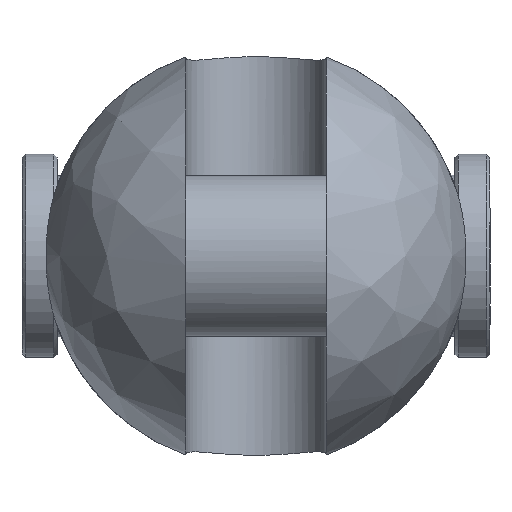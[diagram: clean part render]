
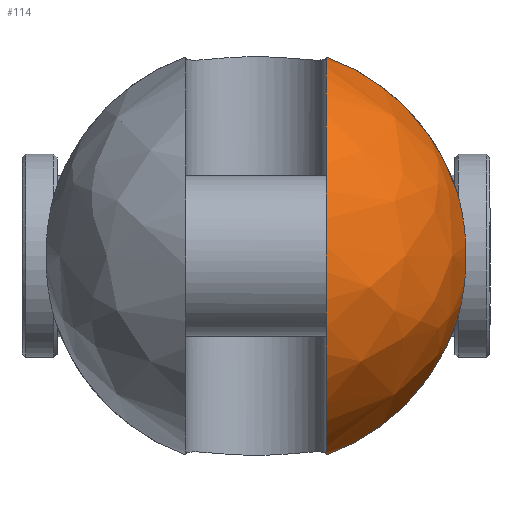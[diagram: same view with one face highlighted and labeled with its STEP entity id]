
A CAD part, left-side view. The second image highlights one B-rep face of the part: STEP entity #114.
In plain terms, the highlighted free-form (B-spline) face has degree [2, 2] with [9, 5] control points.
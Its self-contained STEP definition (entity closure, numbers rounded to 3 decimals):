
#114=ADVANCED_FACE('',(#202),#1535,.T.);
#202=FACE_OUTER_BOUND('',#302,.T.);
#302=EDGE_LOOP('',(#746,#747,#748,#749));
#746=ORIENTED_EDGE('',*,*,#1003,.T.);
#747=ORIENTED_EDGE('',*,*,#1000,.F.);
#748=ORIENTED_EDGE('',*,*,#1017,.T.);
#749=ORIENTED_EDGE('',*,*,#994,.F.);
#994=EDGE_CURVE('',#1425,#1426,#1256,.T.);
#1000=EDGE_CURVE('',#1433,#1434,#1257,.T.);
#1003=EDGE_CURVE('',#1425,#1434,#1259,.T.);
#1017=EDGE_CURVE('',#1433,#1426,#1126,.T.);
#1126=B_SPLINE_CURVE_WITH_KNOTS('',3,(#3564,#3565,#3566,#3567,#3568,#3569,
#3570,#3571,#3572,#3573,#3574,#3575,#3576,#3577),.UNSPECIFIED.,.F.,.F.,
(4,2,2,2,2,2,4),(0.,1.771,5.858,9.944,
14.031,18.117,19.888),.UNSPECIFIED.);
#1256=(
BOUNDED_CURVE()
B_SPLINE_CURVE(2,(#3472,#3473,#3474),.UNSPECIFIED.,.F.,.F.)
B_SPLINE_CURVE_WITH_KNOTS((3,3),(0.,27.615),.UNSPECIFIED.)
CURVE()
GEOMETRIC_REPRESENTATION_ITEM()
RATIONAL_B_SPLINE_CURVE((1.,0.896,1.))
REPRESENTATION_ITEM('')
);
#1257=(
BOUNDED_CURVE()
B_SPLINE_CURVE(2,(#3501,#3502,#3503),.UNSPECIFIED.,.F.,.F.)
B_SPLINE_CURVE_WITH_KNOTS((3,3),(0.,27.615),.UNSPECIFIED.)
CURVE()
GEOMETRIC_REPRESENTATION_ITEM()
RATIONAL_B_SPLINE_CURVE((1.,0.896,1.))
REPRESENTATION_ITEM('')
);
#1259=(
BOUNDED_CURVE()
B_SPLINE_CURVE(2,(#3509,#3510,#3511,#3512,#3513),.UNSPECIFIED.,.F.,.F.)
B_SPLINE_CURVE_WITH_KNOTS((3,2,3),(-88.858,-44.429,
0.),.UNSPECIFIED.)
CURVE()
GEOMETRIC_REPRESENTATION_ITEM()
RATIONAL_B_SPLINE_CURVE((1.,0.707,1.,0.707,1.))
REPRESENTATION_ITEM('')
);
#1425=VERTEX_POINT('',#3302);
#1426=VERTEX_POINT('',#3303);
#1433=VERTEX_POINT('',#3310);
#1434=VERTEX_POINT('',#3311);
#1535=(
BOUNDED_SURFACE()
B_SPLINE_SURFACE(2,2,((#3174,#3175,#3176,#3177,#3178),(#3179,#3180,#3181,
#3182,#3183),(#3184,#3185,#3186,#3187,#3188),(#3189,#3190,#3191,#3192,#3193),
(#3194,#3195,#3196,#3197,#3198),(#3199,#3200,#3201,#3202,#3203),(#3204,
#3205,#3206,#3207,#3208),(#3209,#3210,#3211,#3212,#3213),(#3214,#3215,#3216,
#3217,#3218)),.UNSPECIFIED.,.T.,.F.,.F.)
B_SPLINE_SURFACE_WITH_KNOTS((3,2,2,2,3),(3,2,3),(0.,47.124,94.248,
141.372,188.496),(0.,47.124,94.248),
 .UNSPECIFIED.)
GEOMETRIC_REPRESENTATION_ITEM()
RATIONAL_B_SPLINE_SURFACE(((1.,0.707,1.,0.707,1.),
(0.707,0.5,0.707,0.5,0.707),(1.,0.707,
1.,0.707,1.),(0.707,0.5,0.707,0.5,0.707),
(1.,0.707,1.,0.707,1.),(0.707,0.5,0.707,
0.5,0.707),(1.,0.707,1.,0.707,1.),(0.707,
0.5,0.707,0.5,0.707),(1.,0.707,1.,0.707,
1.)))
REPRESENTATION_ITEM('')
SURFACE()
);
#3174=CARTESIAN_POINT('',(-42.5,0.,0.));
#3175=CARTESIAN_POINT('',(-42.5,30.,0.));
#3176=CARTESIAN_POINT('',(-12.5,30.,0.));
#3177=CARTESIAN_POINT('',(17.5,30.,0.));
#3178=CARTESIAN_POINT('',(17.5,0.,0.));
#3179=CARTESIAN_POINT('',(-42.5,0.,0.));
#3180=CARTESIAN_POINT('',(-42.5,30.,30.));
#3181=CARTESIAN_POINT('',(-12.5,30.,30.));
#3182=CARTESIAN_POINT('',(17.5,30.,30.));
#3183=CARTESIAN_POINT('',(17.5,0.,0.));
#3184=CARTESIAN_POINT('',(-42.5,0.,0.));
#3185=CARTESIAN_POINT('',(-42.5,0.,30.));
#3186=CARTESIAN_POINT('',(-12.5,0.,30.));
#3187=CARTESIAN_POINT('',(17.5,0.,30.));
#3188=CARTESIAN_POINT('',(17.5,0.,0.));
#3189=CARTESIAN_POINT('',(-42.5,0.,0.));
#3190=CARTESIAN_POINT('',(-42.5,-30.,30.));
#3191=CARTESIAN_POINT('',(-12.5,-30.,30.));
#3192=CARTESIAN_POINT('',(17.5,-30.,30.));
#3193=CARTESIAN_POINT('',(17.5,0.,0.));
#3194=CARTESIAN_POINT('',(-42.5,0.,0.));
#3195=CARTESIAN_POINT('',(-42.5,-30.,0.));
#3196=CARTESIAN_POINT('',(-12.5,-30.,0.));
#3197=CARTESIAN_POINT('',(17.5,-30.,0.));
#3198=CARTESIAN_POINT('',(17.5,0.,0.));
#3199=CARTESIAN_POINT('',(-42.5,0.,0.));
#3200=CARTESIAN_POINT('',(-42.5,-30.,-30.));
#3201=CARTESIAN_POINT('',(-12.5,-30.,-30.));
#3202=CARTESIAN_POINT('',(17.5,-30.,-30.));
#3203=CARTESIAN_POINT('',(17.5,0.,0.));
#3204=CARTESIAN_POINT('',(-42.5,0.,0.));
#3205=CARTESIAN_POINT('',(-42.5,0.,-30.));
#3206=CARTESIAN_POINT('',(-12.5,0.,-30.));
#3207=CARTESIAN_POINT('',(17.5,0.,-30.));
#3208=CARTESIAN_POINT('',(17.5,0.,0.));
#3209=CARTESIAN_POINT('',(-42.5,0.,0.));
#3210=CARTESIAN_POINT('',(-42.5,30.,-30.));
#3211=CARTESIAN_POINT('',(-12.5,30.,-30.));
#3212=CARTESIAN_POINT('',(17.5,30.,-30.));
#3213=CARTESIAN_POINT('',(17.5,0.,0.));
#3214=CARTESIAN_POINT('',(-42.5,0.,0.));
#3215=CARTESIAN_POINT('',(-42.5,30.,0.));
#3216=CARTESIAN_POINT('',(-12.5,30.,0.));
#3217=CARTESIAN_POINT('',(17.5,30.,0.));
#3218=CARTESIAN_POINT('',(17.5,0.,0.));
#3302=CARTESIAN_POINT('',(-12.5,-10.,28.284));
#3303=CARTESIAN_POINT('',(-12.5,-28.566,9.165));
#3310=CARTESIAN_POINT('',(-12.5,-28.566,-9.165));
#3311=CARTESIAN_POINT('',(-12.5,-10.,-28.284));
#3472=CARTESIAN_POINT('',(-12.5,-10.,28.284));
#3473=CARTESIAN_POINT('',(-12.5,-24.022,23.327));
#3474=CARTESIAN_POINT('',(-12.5,-28.566,9.165));
#3501=CARTESIAN_POINT('',(-12.5,-28.566,-9.165));
#3502=CARTESIAN_POINT('',(-12.5,-24.022,-23.327));
#3503=CARTESIAN_POINT('',(-12.5,-10.,-28.284));
#3509=CARTESIAN_POINT('',(-12.5,-10.,28.284));
#3510=CARTESIAN_POINT('',(-40.784,-10.,28.284));
#3511=CARTESIAN_POINT('',(-40.784,-10.,0.));
#3512=CARTESIAN_POINT('',(-40.784,-10.,-28.284));
#3513=CARTESIAN_POINT('',(-12.5,-10.,-28.284));
#3564=CARTESIAN_POINT('',(-12.5,-28.566,-9.165));
#3565=CARTESIAN_POINT('',(-12.838,-28.714,-8.704));
#3566=CARTESIAN_POINT('',(-13.146,-28.847,-8.231));
#3567=CARTESIAN_POINT('',(-14.053,-29.239,-6.661));
#3568=CARTESIAN_POINT('',(-14.603,-29.472,-5.378));
#3569=CARTESIAN_POINT('',(-15.327,-29.777,-2.695));
#3570=CARTESIAN_POINT('',(-15.5,-29.85,-1.294));
#3571=CARTESIAN_POINT('',(-15.5,-29.85,1.294));
#3572=CARTESIAN_POINT('',(-15.327,-29.777,2.695));
#3573=CARTESIAN_POINT('',(-14.603,-29.472,5.378));
#3574=CARTESIAN_POINT('',(-14.053,-29.239,6.661));
#3575=CARTESIAN_POINT('',(-13.146,-28.847,8.231));
#3576=CARTESIAN_POINT('',(-12.838,-28.714,8.704));
#3577=CARTESIAN_POINT('',(-12.5,-28.566,9.165));
